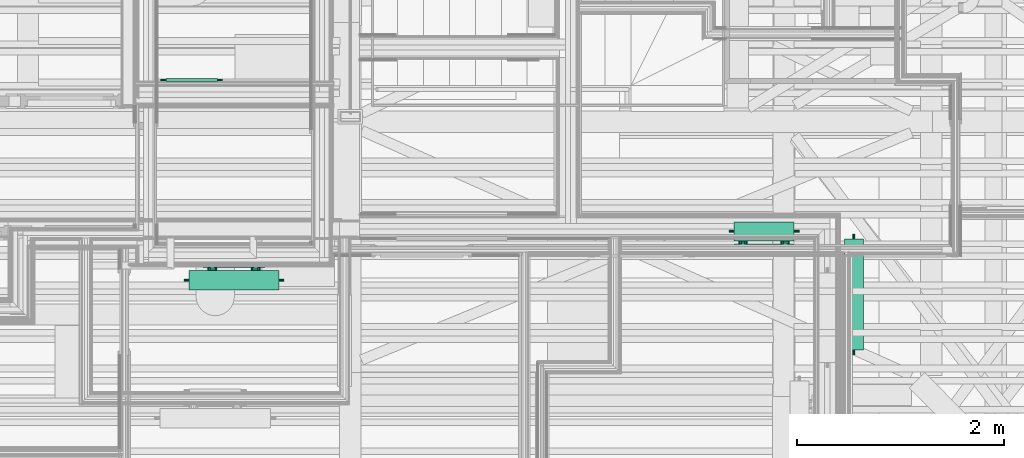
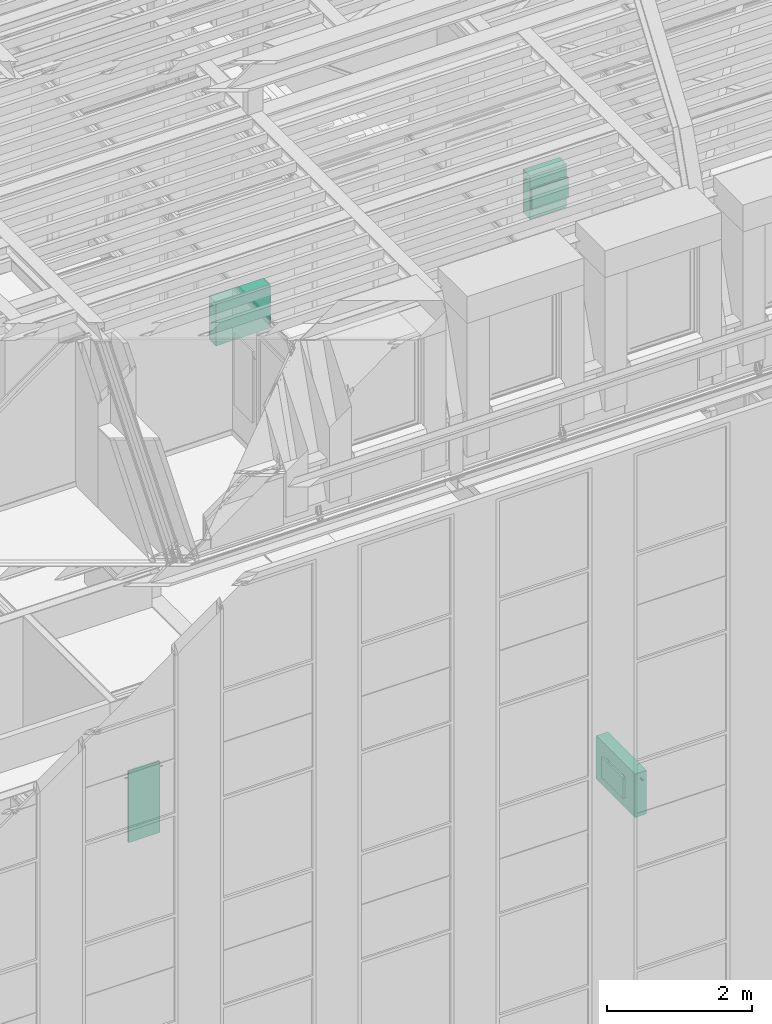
# One storey, part 166 of 183: 4 flow terminals.
"""IFC2X3 building model written with IfcOpenShell, lengths in metres."""

from ifc_helpers import new_model, entity, si_unit, converted_unit, derived_unit, money_unit, direction, frame, origin_with_axes, place, context, subcontext, project, spatial, open_shell, surface_model, material, type_object, element, save


model = new_model("IFC2X3")

# Units and contexts
model_context = context("Model", 3, precision=1e-05, world=origin_with_axes(), true_north=direction((0.0, 1.0)))
body_context = subcontext(model_context, "Body", "Model", "MODEL_VIEW", scale=1.0)
ifc_project = project(units=[si_unit("LENGTHUNIT", "METRE"), si_unit("AREAUNIT", "SQUARE_METRE"), si_unit("VOLUMEUNIT", "CUBIC_METRE"), si_unit("ABSORBEDDOSEUNIT", "GRAY"), si_unit("AMOUNTOFSUBSTANCEUNIT", "MOLE"), si_unit("DOSEEQUIVALENTUNIT", "SIEVERT"), si_unit("ELECTRICCAPACITANCEUNIT", "FARAD"), si_unit("ELECTRICCHARGEUNIT", "COULOMB"), si_unit("ELECTRICCONDUCTANCEUNIT", "SIEMENS"), si_unit("ELECTRICCURRENTUNIT", "AMPERE"), si_unit("ELECTRICRESISTANCEUNIT", "OHM"), si_unit("ELECTRICVOLTAGEUNIT", "VOLT"), si_unit("ENERGYUNIT", "JOULE"), si_unit("FORCEUNIT", "NEWTON"), si_unit("FREQUENCYUNIT", "HERTZ"), si_unit("ILLUMINANCEUNIT", "LUX"), si_unit("INDUCTANCEUNIT", "HENRY"), si_unit("LUMINOUSFLUXUNIT", "LUMEN"), si_unit("LUMINOUSINTENSITYUNIT", "CANDELA"), si_unit("MAGNETICFLUXDENSITYUNIT", "TESLA"), si_unit("MAGNETICFLUXUNIT", "WEBER"), si_unit("MASSUNIT", "GRAM"), converted_unit("PLANEANGLEUNIT", "degree", entity("IfcReal", 0.0174532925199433), si_unit("PLANEANGLEUNIT", "RADIAN"), dimensions=[0, 0, 0, 0, 0, 0, 0]), si_unit("POWERUNIT", "WATT"), si_unit("PRESSUREUNIT", "PASCAL"), si_unit("RADIOACTIVITYUNIT", "BECQUEREL"), si_unit("SOLIDANGLEUNIT", "STERADIAN"), si_unit("THERMODYNAMICTEMPERATUREUNIT", "KELVIN"), si_unit("TIMEUNIT", "SECOND"), derived_unit("ACCELERATIONUNIT", [(si_unit("LENGTHUNIT", "METRE"), 1), (si_unit("TIMEUNIT", "SECOND"), -2)]), derived_unit("ANGULARVELOCITYUNIT", [(converted_unit("PLANEANGLEUNIT", "degree", entity("IfcReal", 0.0174532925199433), si_unit("PLANEANGLEUNIT", "RADIAN"), dimensions=[0, 0, 0, 0, 0, 0, 0]), 1), (si_unit("TIMEUNIT", "SECOND"), -1)]), derived_unit("CURVATUREUNIT", [(converted_unit("PLANEANGLEUNIT", "degree", entity("IfcReal", 0.0174532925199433), si_unit("PLANEANGLEUNIT", "RADIAN"), dimensions=[0, 0, 0, 0, 0, 0, 0]), 1), (si_unit("LENGTHUNIT", "METRE"), -1)]), derived_unit("DYNAMICVISCOSITYUNIT", [(si_unit("PRESSUREUNIT", "PASCAL"), 1), (si_unit("TIMEUNIT", "SECOND"), 1)]), derived_unit("HEATFLUXDENSITYUNIT", [(si_unit("POWERUNIT", "WATT"), 1), (si_unit("LENGTHUNIT", "METRE"), -2)]), derived_unit("HEATINGVALUEUNIT", [(si_unit("ENERGYUNIT", "JOULE"), 1), (si_unit("MASSUNIT", "GRAM"), -1)]), derived_unit("INTEGERCOUNTRATEUNIT", [(si_unit("TIMEUNIT", "SECOND"), -1)]), derived_unit("IONCONCENTRATIONUNIT", [(si_unit("MASSUNIT", "GRAM"), 1), (si_unit("VOLUMEUNIT", "CUBIC_METRE"), -1)]), derived_unit("ISOTHERMALMOISTURECAPACITYUNIT", [(si_unit("VOLUMEUNIT", "CUBIC_METRE"), 1), (si_unit("MASSUNIT", "GRAM"), -1)]), derived_unit("KINEMATICVISCOSITYUNIT", [(si_unit("AREAUNIT", "SQUARE_METRE"), 1), (si_unit("TIMEUNIT", "SECOND"), -1)]), derived_unit("LINEARFORCEUNIT", [(si_unit("FORCEUNIT", "NEWTON"), 1), (si_unit("LENGTHUNIT", "METRE"), -1)]), derived_unit("LINEARMOMENTUNIT", [(si_unit("FORCEUNIT", "NEWTON"), 1), (si_unit("LENGTHUNIT", "METRE"), -1)]), derived_unit("LINEARSTIFFNESSUNIT", [(si_unit("FORCEUNIT", "NEWTON"), 1), (si_unit("LENGTHUNIT", "METRE"), -1)]), derived_unit("LINEARVELOCITYUNIT", [(si_unit("LENGTHUNIT", "METRE"), 1), (si_unit("TIMEUNIT", "SECOND"), -1)]), derived_unit("LUMINOUSINTENSITYDISTRIBUTIONUNIT", [(si_unit("LUMINOUSINTENSITYUNIT", "CANDELA"), 1), (si_unit("LUMINOUSFLUXUNIT", "LUMEN"), -1)]), derived_unit("MASSDENSITYUNIT", [(si_unit("MASSUNIT", "GRAM"), 1), (si_unit("VOLUMEUNIT", "CUBIC_METRE"), -1)]), derived_unit("MASSFLOWRATEUNIT", [(si_unit("MASSUNIT", "GRAM"), 1), (si_unit("TIMEUNIT", "SECOND"), -1)]), derived_unit("MASSPERLENGTHUNIT", [(si_unit("MASSUNIT", "GRAM"), 1), (si_unit("LENGTHUNIT", "METRE"), -1)]), derived_unit("MODULUSOFELASTICITYUNIT", [(si_unit("FORCEUNIT", "NEWTON"), 1), (si_unit("AREAUNIT", "SQUARE_METRE"), -1)]), derived_unit("MODULUSOFLINEARSUBGRADEREACTIONUNIT", [(si_unit("FORCEUNIT", "NEWTON"), 1), (si_unit("LENGTHUNIT", "METRE"), -2)]), derived_unit("MODULUSOFROTATIONALSUBGRADEREACTIONUNIT", [(si_unit("FORCEUNIT", "NEWTON"), 1), (si_unit("LENGTHUNIT", "METRE"), 1)]), derived_unit("MODULUSOFSUBGRADEREACTIONUNIT", [(si_unit("FORCEUNIT", "NEWTON"), 1), (si_unit("VOLUMEUNIT", "CUBIC_METRE"), -1)]), derived_unit("MOISTUREDIFFUSIVITYUNIT", [(si_unit("VOLUMEUNIT", "CUBIC_METRE"), 1), (si_unit("TIMEUNIT", "SECOND"), -1)]), derived_unit("MOLECULARWEIGHTUNIT", [(si_unit("MASSUNIT", "GRAM"), 1), (si_unit("AMOUNTOFSUBSTANCEUNIT", "MOLE"), -1)]), derived_unit("PLANARFORCEUNIT", [(si_unit("FORCEUNIT", "NEWTON"), 1), (si_unit("LENGTHUNIT", "METRE"), -2)]), derived_unit("ROTATIONALFREQUENCYUNIT", [(si_unit("TIMEUNIT", "SECOND"), -1)]), derived_unit("ROTATIONALMASSUNIT", [(si_unit("MASSUNIT", "GRAM"), 1), (si_unit("LENGTHUNIT", "METRE"), 2)]), derived_unit("ROTATIONALSTIFFNESSUNIT", [(si_unit("FORCEUNIT", "NEWTON"), 1), (si_unit("LENGTHUNIT", "METRE"), 1), (converted_unit("PLANEANGLEUNIT", "degree", entity("IfcReal", 0.0174532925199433), si_unit("PLANEANGLEUNIT", "RADIAN"), dimensions=[0, 0, 0, 0, 0, 0, 0]), -1)]), derived_unit("SECTIONAREAINTEGRALUNIT", [(si_unit("LENGTHUNIT", "METRE"), 5)]), derived_unit("SECTIONMODULUSUNIT", [(si_unit("LENGTHUNIT", "METRE"), 3)]), derived_unit("SHEARMODULUSUNIT", [(si_unit("FORCEUNIT", "NEWTON"), 1), (si_unit("AREAUNIT", "SQUARE_METRE"), -1)]), derived_unit("SOUNDPOWERUNIT", [(si_unit("ENERGYUNIT", "JOULE"), 1), (si_unit("TIMEUNIT", "SECOND"), -1)]), derived_unit("SPECIFICHEATCAPACITYUNIT", [(si_unit("FORCEUNIT", "NEWTON"), 1), (si_unit("MASSUNIT", "GRAM"), -1), (si_unit("THERMODYNAMICTEMPERATUREUNIT", "KELVIN"), -1)]), derived_unit("TEMPERATUREGRADIENTUNIT", [(si_unit("THERMODYNAMICTEMPERATUREUNIT", "KELVIN"), 1), (si_unit("LENGTHUNIT", "METRE"), -1)]), derived_unit("THERMALADMITTANCEUNIT", [(si_unit("POWERUNIT", "WATT"), 1), (si_unit("AREAUNIT", "SQUARE_METRE"), -1), (si_unit("THERMODYNAMICTEMPERATUREUNIT", "KELVIN"), -1)]), derived_unit("THERMALCONDUCTANCEUNIT", [(si_unit("POWERUNIT", "WATT"), 1), (si_unit("LENGTHUNIT", "METRE"), -1), (si_unit("THERMODYNAMICTEMPERATUREUNIT", "KELVIN"), -1)]), derived_unit("THERMALEXPANSIONCOEFFICIENTUNIT", [(si_unit("THERMODYNAMICTEMPERATUREUNIT", "KELVIN"), -1)]), derived_unit("THERMALRESISTANCEUNIT", [(si_unit("AREAUNIT", "SQUARE_METRE"), 1), (si_unit("POWERUNIT", "WATT"), -1)]), derived_unit("THERMALTRANSMITTANCEUNIT", [(si_unit("POWERUNIT", "WATT"), 1), (si_unit("AREAUNIT", "SQUARE_METRE"), -1), (si_unit("THERMODYNAMICTEMPERATUREUNIT", "KELVIN"), -1)]), derived_unit("TORQUEUNIT", [(si_unit("FORCEUNIT", "NEWTON"), 1), (si_unit("LENGTHUNIT", "METRE"), 1)]), derived_unit("VAPORPERMEABILITYUNIT", [(si_unit("MASSUNIT", "GRAM"), 1), (si_unit("TIMEUNIT", "SECOND"), -1)]), derived_unit("VOLUMETRICFLOWRATEUNIT", [(si_unit("VOLUMEUNIT", "CUBIC_METRE"), 1), (si_unit("TIMEUNIT", "SECOND"), -1)]), derived_unit("WARPINGCONSTANTUNIT", [(si_unit("LENGTHUNIT", "METRE"), 6)]), derived_unit("WARPINGMOMENTUNIT", [(si_unit("FORCEUNIT", "NEWTON"), 1), (si_unit("LENGTHUNIT", "METRE"), 2)]), money_unit("GBP")], contexts=[model_context])

# Site, building, storey, space
site_placement = place(None, origin_with_axes())
site = spatial("IfcSite", under=ifc_project, at=site_placement, Name="Site", CompositionType="ELEMENT")
building_placement = place(site_placement, origin_with_axes())
building = spatial("IfcBuilding", under=site, at=building_placement, Name="Building01", CompositionType="ELEMENT")
storey_placement = place(building_placement, frame((0.0, 0.0, 5.15), z_axis=(0.0, 0.0, 1.0), x_axis=(1.0, 0.0, 0.0)))
storey = spatial("IfcBuildingStorey", under=building, at=storey_placement, Name="1F", CompositionType="ELEMENT", Elevation=5.15)
space_1_placement = place(storey_placement, frame((20.122661, 7.155, 0.017975), z_axis=(0.0, 0.0, 1.0), x_axis=(0.0, -1.0, 0.0)))
space_1 = spatial("IfcSpace", under=storey, at=space_1_placement, Name="studio", CompositionType="ELEMENT", InteriorOrExteriorSpace="NOTDEFINED")

# Flow terminal
ifc_material = material(Name="M_BSUK_Ventilation")
space_heater_type_1 = type_object("IfcSpaceHeaterType", Name="M-BmvRadiatorpanel-Panel", PredefinedType="NOTDEFINED")
flow_terminal_1_placement = place(storey_placement, frame((22.77025, 4.9695, 0.665), z_axis=(0.0, 0.0, 1.0), x_axis=(0.0, 1.0, 0.0)))
element("IfcFlowTerminal", 1, at=flow_terminal_1_placement, inside=space_1, type_object=space_heater_type_1, material=ifc_material, Name="M-BmvRadiatorpanel-Panel", ObjectType="M-BmvRadiatorpanel-Panel", context=body_context, shape_type="SurfaceModel", body=[
    surface_model("IfcShellBasedSurfaceModel", [(-1.069, -0.0925, 0.365), (-1.069, 0.0925, 0.365), (0.0, 0.0925, 0.365), (0.0, -0.0925, 0.365), (-1.069, -0.0925, -0.365), (-1.069, 0.0925, -0.365), (0.0, -0.0925, -0.365), (0.0, 0.0925, -0.365), (-0.2345, 0.12025, 0.175), (-0.8345, 0.12025, 0.175), (-0.8345, 0.14525, 0.175), (-0.2345, 0.14525, 0.175), (-0.8345, 0.14525, -0.175), (-0.2345, 0.14525, -0.175), (-0.8345, 0.12025, -0.175), (-0.2345, 0.12025, -0.175), (-0.3245, 0.0925, 0.0775), (-0.3245, 0.12025, 0.0775), (-0.307279, 0.12025, 0.080925), (-0.307279, 0.0925, 0.080925), (-0.29268, 0.12025, 0.09068), (-0.29268, 0.0925, 0.09068), (-0.282925, 0.12025, 0.105279), (-0.282925, 0.0925, 0.105279), (-0.2795, 0.12025, 0.1225), (-0.2795, 0.0925, 0.1225), (-0.282925, 0.12025, 0.139721), (-0.282925, 0.0925, 0.139721), (-0.29268, 0.12025, 0.15432), (-0.29268, 0.0925, 0.15432), (-0.307279, 0.12025, 0.164075), (-0.307279, 0.0925, 0.164075), (-0.3245, 0.12025, 0.1675), (-0.3245, 0.0925, 0.1675), (-0.341721, 0.12025, 0.164075), (-0.341721, 0.0925, 0.164075), (-0.35632, 0.12025, 0.15432), (-0.35632, 0.0925, 0.15432), (-0.366075, 0.12025, 0.139721), (-0.366075, 0.0925, 0.139721), (-0.3695, 0.12025, 0.1225), (-0.3695, 0.0925, 0.1225), (-0.366075, 0.12025, 0.105279), (-0.366075, 0.0925, 0.105279), (-0.35632, 0.12025, 0.09068), (-0.35632, 0.0925, 0.09068), (-0.341721, 0.12025, 0.080925), (-0.341721, 0.0925, 0.080925), (-0.7445, 0.0925, 0.0775), (-0.7445, 0.12025, 0.0775), (-0.727279, 0.12025, 0.080925), (-0.727279, 0.0925, 0.080925), (-0.71268, 0.12025, 0.09068), (-0.71268, 0.0925, 0.09068), (-0.702925, 0.12025, 0.105279), (-0.702925, 0.0925, 0.105279), (-0.6995, 0.12025, 0.1225), (-0.6995, 0.0925, 0.1225), (-0.702925, 0.12025, 0.139721), (-0.702925, 0.0925, 0.139721), (-0.71268, 0.12025, 0.15432), (-0.71268, 0.0925, 0.15432), (-0.727279, 0.12025, 0.164075), (-0.727279, 0.0925, 0.164075), (-0.7445, 0.12025, 0.1675), (-0.7445, 0.0925, 0.1675), (-0.761721, 0.12025, 0.164075), (-0.761721, 0.0925, 0.164075), (-0.77632, 0.12025, 0.15432), (-0.77632, 0.0925, 0.15432), (-0.786075, 0.12025, 0.139721), (-0.786075, 0.0925, 0.139721), (-0.7895, 0.12025, 0.1225), (-0.7895, 0.0925, 0.1225), (-0.786075, 0.12025, 0.105279), (-0.786075, 0.0925, 0.105279), (-0.77632, 0.12025, 0.09068), (-0.77632, 0.0925, 0.09068), (-0.761721, 0.12025, 0.080925), (-0.761721, 0.0925, 0.080925), (0.05, 0.0, -0.0225), (0.0, 0.0, -0.0225), (0.0, 0.004784, -0.021548), (0.05, 0.004784, -0.021548), (0.0, 0.008839, -0.018839), (0.05, 0.008839, -0.018839), (0.0, 0.011548, -0.014784), (0.05, 0.011548, -0.014784), (0.0, 0.0125, -0.01), (0.05, 0.0125, -0.01), (0.0, 0.011548, -0.005216), (0.05, 0.011548, -0.005216), (0.0, 0.008839, -0.001161), (0.05, 0.008839, -0.001161), (0.0, 0.004784, 0.001548), (0.05, 0.004784, 0.001548), (0.0, 0.0, 0.0025), (0.05, 0.0, 0.0025), (0.0, -0.004784, 0.001548), (0.05, -0.004784, 0.001548), (0.0, -0.008839, -0.001161), (0.05, -0.008839, -0.001161), (0.0, -0.011548, -0.005216), (0.05, -0.011548, -0.005216), (0.0, -0.0125, -0.01), (0.05, -0.0125, -0.01), (0.0, -0.011548, -0.014784), (0.05, -0.011548, -0.014784), (0.0, -0.008839, -0.018839), (0.05, -0.008839, -0.018839), (0.0, -0.004784, -0.021548), (0.05, -0.004784, -0.021548), (-1.119, 0.0, 0.2525), (-1.069, 0.0, 0.2525), (-1.069, -0.004784, 0.253452), (-1.119, -0.004784, 0.253452), (-1.069, -0.008839, 0.256161), (-1.119, -0.008839, 0.256161), (-1.069, -0.011548, 0.260216), (-1.119, -0.011548, 0.260216), (-1.069, -0.0125, 0.265), (-1.119, -0.0125, 0.265), (-1.069, -0.011548, 0.269784), (-1.119, -0.011548, 0.269784), (-1.069, -0.008839, 0.273839), (-1.119, -0.008839, 0.273839), (-1.069, -0.004784, 0.276548), (-1.119, -0.004784, 0.276548), (-1.069, 0.0, 0.2775), (-1.119, 0.0, 0.2775), (-1.069, 0.004784, 0.276548), (-1.119, 0.004784, 0.276548), (-1.069, 0.008839, 0.273839), (-1.119, 0.008839, 0.273839), (-1.069, 0.011548, 0.269784), (-1.119, 0.011548, 0.269784), (-1.069, 0.0125, 0.265), (-1.119, 0.0125, 0.265), (-1.069, 0.011548, 0.260216), (-1.119, 0.011548, 0.260216), (-1.069, 0.008839, 0.256161), (-1.119, 0.008839, 0.256161), (-1.069, 0.004784, 0.253452), (-1.119, 0.004784, 0.253452)], [open_shell([[[0, 1, 2, 3]], [[4, 5, 1, 0]], [[6, 7, 5, 4]], [[3, 2, 7, 6]], [[1, 5, 7, 2]], [[3, 6, 4, 0]], [[8, 9, 10, 11]], [[11, 10, 12, 13]], [[13, 12, 14, 15]], [[15, 14, 9, 8]], [[9, 14, 12, 10]], [[11, 13, 15, 8]], [[16, 17, 18, 19]], [[19, 18, 20, 21]], [[21, 20, 22, 23]], [[23, 22, 24, 25]], [[25, 24, 26, 27]], [[27, 26, 28, 29]], [[29, 28, 30, 31]], [[31, 30, 32, 33]], [[33, 32, 34, 35]], [[35, 34, 36, 37]], [[37, 36, 38, 39]], [[39, 38, 40, 41]], [[41, 40, 42, 43]], [[43, 42, 44, 45]], [[45, 44, 46, 47]], [[47, 46, 17, 16]], [[48, 49, 50, 51]], [[51, 50, 52, 53]], [[53, 52, 54, 55]], [[55, 54, 56, 57]], [[57, 56, 58, 59]], [[59, 58, 60, 61]], [[61, 60, 62, 63]], [[63, 62, 64, 65]], [[65, 64, 66, 67]], [[67, 66, 68, 69]], [[69, 68, 70, 71]], [[71, 70, 72, 73]], [[73, 72, 74, 75]], [[75, 74, 76, 77]], [[77, 76, 78, 79]], [[79, 78, 49, 48]], [[80, 81, 82, 83]], [[83, 82, 84, 85]], [[85, 84, 86, 87]], [[87, 86, 88, 89]], [[89, 88, 90, 91]], [[91, 90, 92, 93]], [[93, 92, 94, 95]], [[95, 94, 96, 97]], [[97, 96, 98, 99]], [[99, 98, 100, 101]], [[101, 100, 102, 103]], [[103, 102, 104, 105]], [[105, 104, 106, 107]], [[107, 106, 108, 109]], [[109, 108, 110, 111]], [[111, 110, 81, 80]], [[112, 113, 114, 115]], [[115, 114, 116, 117]], [[117, 116, 118, 119]], [[119, 118, 120, 121]], [[121, 120, 122, 123]], [[123, 122, 124, 125]], [[125, 124, 126, 127]], [[127, 126, 128, 129]], [[129, 128, 130, 131]], [[131, 130, 132, 133]], [[133, 132, 134, 135]], [[135, 134, 136, 137]], [[137, 136, 138, 139]], [[139, 138, 140, 141]], [[141, 140, 142, 143]], [[143, 142, 113, 112]]])]),
])

# Space
space_2_placement = place(storey_placement, frame((17.73844, 7.349915, 9.81), z_axis=(0.0, 0.0, 1.0), x_axis=(0.0, -1.0, 0.0)))
space_2 = spatial("IfcSpace", under=storey, at=space_2_placement, Name="24", CompositionType="ELEMENT", InteriorOrExteriorSpace="NOTDEFINED")

# Flow terminals
flow_terminal_2_placement = place(storey_placement, frame((22.193545, 5.04225, 10.445), z_axis=(0.0, 0.0, 1.0), x_axis=(-1.0, 0.0, 0.0)))
element("IfcFlowTerminal", 2, at=flow_terminal_2_placement, inside=space_2, type_object=space_heater_type_1, material=ifc_material, Name="M-BmvRadiatorpanel-Panel", ObjectType="M-BmvRadiatorpanel-Panel", context=body_context, shape_type="SurfaceModel", body=[
    surface_model("IfcShellBasedSurfaceModel", [(0.58, -0.0925, 0.365), (0.58, 0.0925, 0.365), (0.0, 0.0925, 0.365), (0.0, -0.0925, 0.365), (0.58, -0.0925, -0.365), (0.58, 0.0925, -0.365), (0.0, -0.0925, -0.365), (0.0, 0.0925, -0.365), (0.0, 0.12025, 0.175), (0.58, 0.12025, 0.175), (0.58, 0.14525, 0.175), (0.0, 0.14525, 0.175), (0.58, 0.14525, -0.175), (0.0, 0.14525, -0.175), (0.58, 0.12025, -0.175), (0.0, 0.12025, -0.175), (0.087, 0.0925, 0.079), (0.087, 0.12025, 0.079), (0.103647, 0.12025, 0.082311), (0.103647, 0.0925, 0.082311), (0.117759, 0.12025, 0.091741), (0.117759, 0.0925, 0.091741), (0.127189, 0.12025, 0.105853), (0.127189, 0.0925, 0.105853), (0.1305, 0.12025, 0.1225), (0.1305, 0.0925, 0.1225), (0.127189, 0.12025, 0.139147), (0.127189, 0.0925, 0.139147), (0.117759, 0.12025, 0.153259), (0.117759, 0.0925, 0.153259), (0.103647, 0.12025, 0.162689), (0.103647, 0.0925, 0.162689), (0.087, 0.12025, 0.166), (0.087, 0.0925, 0.166), (0.070353, 0.12025, 0.162689), (0.070353, 0.0925, 0.162689), (0.056241, 0.12025, 0.153259), (0.056241, 0.0925, 0.153259), (0.046811, 0.12025, 0.139147), (0.046811, 0.0925, 0.139147), (0.0435, 0.12025, 0.1225), (0.0435, 0.0925, 0.1225), (0.046811, 0.12025, 0.105853), (0.046811, 0.0925, 0.105853), (0.056241, 0.12025, 0.091741), (0.056241, 0.0925, 0.091741), (0.070353, 0.12025, 0.082311), (0.070353, 0.0925, 0.082311), (0.493, 0.0925, 0.079), (0.493, 0.12025, 0.079), (0.509647, 0.12025, 0.082311), (0.509647, 0.0925, 0.082311), (0.523759, 0.12025, 0.091741), (0.523759, 0.0925, 0.091741), (0.533189, 0.12025, 0.105853), (0.533189, 0.0925, 0.105853), (0.5365, 0.12025, 0.1225), (0.5365, 0.0925, 0.1225), (0.533189, 0.12025, 0.139147), (0.533189, 0.0925, 0.139147), (0.523759, 0.12025, 0.153259), (0.523759, 0.0925, 0.153259), (0.509647, 0.12025, 0.162689), (0.509647, 0.0925, 0.162689), (0.493, 0.12025, 0.166), (0.493, 0.0925, 0.166), (0.476353, 0.12025, 0.162689), (0.476353, 0.0925, 0.162689), (0.462241, 0.12025, 0.153259), (0.462241, 0.0925, 0.153259), (0.452811, 0.12025, 0.139147), (0.452811, 0.0925, 0.139147), (0.4495, 0.12025, 0.1225), (0.4495, 0.0925, 0.1225), (0.452811, 0.12025, 0.105853), (0.452811, 0.0925, 0.105853), (0.462241, 0.12025, 0.091741), (0.462241, 0.0925, 0.091741), (0.476353, 0.12025, 0.082311), (0.476353, 0.0925, 0.082311), (-0.05, 0.0, -0.0225), (0.0, 0.0, -0.0225), (0.0, -0.004784, -0.021548), (-0.05, -0.004784, -0.021548), (0.0, -0.008839, -0.018839), (-0.05, -0.008839, -0.018839), (0.0, -0.011548, -0.014784), (-0.05, -0.011548, -0.014784), (0.0, -0.0125, -0.01), (-0.05, -0.0125, -0.01), (0.0, -0.011548, -0.005216), (-0.05, -0.011548, -0.005216), (0.0, -0.008839, -0.001161), (-0.05, -0.008839, -0.001161), (0.0, -0.004784, 0.001548), (-0.05, -0.004784, 0.001548), (0.0, 0.0, 0.0025), (-0.05, 0.0, 0.0025), (0.0, 0.004784, 0.001548), (-0.05, 0.004784, 0.001548), (0.0, 0.008839, -0.001161), (-0.05, 0.008839, -0.001161), (0.0, 0.011548, -0.005216), (-0.05, 0.011548, -0.005216), (0.0, 0.0125, -0.01), (-0.05, 0.0125, -0.01), (0.0, 0.011548, -0.014784), (-0.05, 0.011548, -0.014784), (0.0, 0.008839, -0.018839), (-0.05, 0.008839, -0.018839), (0.0, 0.004784, -0.021548), (-0.05, 0.004784, -0.021548), (0.63, 0.0, 0.2525), (0.58, 0.0, 0.2525), (0.58, 0.004784, 0.253452), (0.63, 0.004784, 0.253452), (0.58, 0.008839, 0.256161), (0.63, 0.008839, 0.256161), (0.58, 0.011548, 0.260216), (0.63, 0.011548, 0.260216), (0.58, 0.0125, 0.265), (0.63, 0.0125, 0.265), (0.58, 0.011548, 0.269784), (0.63, 0.011548, 0.269784), (0.58, 0.008839, 0.273839), (0.63, 0.008839, 0.273839), (0.58, 0.004784, 0.276548), (0.63, 0.004784, 0.276548), (0.58, 0.0, 0.2775), (0.63, 0.0, 0.2775), (0.58, -0.004784, 0.276548), (0.63, -0.004784, 0.276548), (0.58, -0.008839, 0.273839), (0.63, -0.008839, 0.273839), (0.58, -0.011548, 0.269784), (0.63, -0.011548, 0.269784), (0.58, -0.0125, 0.265), (0.63, -0.0125, 0.265), (0.58, -0.011548, 0.260216), (0.63, -0.011548, 0.260216), (0.58, -0.008839, 0.256161), (0.63, -0.008839, 0.256161), (0.58, -0.004784, 0.253452), (0.63, -0.004784, 0.253452)], [open_shell([[[0, 1, 2, 3]], [[4, 5, 1, 0]], [[6, 7, 5, 4]], [[3, 2, 7, 6]], [[1, 5, 7, 2]], [[3, 6, 4, 0]], [[8, 9, 10, 11]], [[11, 10, 12, 13]], [[13, 12, 14, 15]], [[15, 14, 9, 8]], [[9, 14, 12, 10]], [[11, 13, 15, 8]], [[16, 17, 18, 19]], [[19, 18, 20, 21]], [[21, 20, 22, 23]], [[23, 22, 24, 25]], [[25, 24, 26, 27]], [[27, 26, 28, 29]], [[29, 28, 30, 31]], [[31, 30, 32, 33]], [[33, 32, 34, 35]], [[35, 34, 36, 37]], [[37, 36, 38, 39]], [[39, 38, 40, 41]], [[41, 40, 42, 43]], [[43, 42, 44, 45]], [[45, 44, 46, 47]], [[47, 46, 17, 16]], [[48, 49, 50, 51]], [[51, 50, 52, 53]], [[53, 52, 54, 55]], [[55, 54, 56, 57]], [[57, 56, 58, 59]], [[59, 58, 60, 61]], [[61, 60, 62, 63]], [[63, 62, 64, 65]], [[65, 64, 66, 67]], [[67, 66, 68, 69]], [[69, 68, 70, 71]], [[71, 70, 72, 73]], [[73, 72, 74, 75]], [[75, 74, 76, 77]], [[77, 76, 78, 79]], [[79, 78, 49, 48]], [[80, 81, 82, 83]], [[83, 82, 84, 85]], [[85, 84, 86, 87]], [[87, 86, 88, 89]], [[89, 88, 90, 91]], [[91, 90, 92, 93]], [[93, 92, 94, 95]], [[95, 94, 96, 97]], [[97, 96, 98, 99]], [[99, 98, 100, 101]], [[101, 100, 102, 103]], [[103, 102, 104, 105]], [[105, 104, 106, 107]], [[107, 106, 108, 109]], [[109, 108, 110, 111]], [[111, 110, 81, 80]], [[112, 113, 114, 115]], [[115, 114, 116, 117]], [[117, 116, 118, 119]], [[119, 118, 120, 121]], [[121, 120, 122, 123]], [[123, 122, 124, 125]], [[125, 124, 126, 127]], [[127, 126, 128, 129]], [[129, 128, 130, 131]], [[131, 130, 132, 133]], [[133, 132, 134, 135]], [[135, 134, 136, 137]], [[137, 136, 138, 139]], [[139, 138, 140, 141]], [[141, 140, 142, 143]], [[143, 142, 113, 112]]])]),
])
flow_terminal_3_placement = place(storey_placement, frame((17.22094, 4.57175, 10.445), z_axis=(0.0, 0.0, 1.0), x_axis=(1.0, 0.0, 0.0)))
element("IfcFlowTerminal", 3, at=flow_terminal_3_placement, inside=space_2, type_object=space_heater_type_1, material=ifc_material, Name="M-BmvRadiatorpanel-Panel", ObjectType="M-BmvRadiatorpanel-Panel", context=body_context, shape_type="SurfaceModel", body=[
    surface_model("IfcShellBasedSurfaceModel", [(-0.865, -0.0925, 0.365), (-0.865, 0.0925, 0.365), (0.0, 0.0925, 0.365), (0.0, -0.0925, 0.365), (-0.865, -0.0925, -0.365), (-0.865, 0.0925, -0.365), (0.0, -0.0925, -0.365), (0.0, 0.0925, -0.365), (-0.1325, 0.12025, 0.175), (-0.7325, 0.12025, 0.175), (-0.7325, 0.14525, 0.175), (-0.1325, 0.14525, 0.175), (-0.7325, 0.14525, -0.175), (-0.1325, 0.14525, -0.175), (-0.7325, 0.12025, -0.175), (-0.1325, 0.12025, -0.175), (-0.2225, 0.0925, 0.0775), (-0.2225, 0.12025, 0.0775), (-0.205279, 0.12025, 0.080925), (-0.205279, 0.0925, 0.080925), (-0.19068, 0.12025, 0.09068), (-0.19068, 0.0925, 0.09068), (-0.180925, 0.12025, 0.105279), (-0.180925, 0.0925, 0.105279), (-0.1775, 0.12025, 0.1225), (-0.1775, 0.0925, 0.1225), (-0.180925, 0.12025, 0.139721), (-0.180925, 0.0925, 0.139721), (-0.19068, 0.12025, 0.15432), (-0.19068, 0.0925, 0.15432), (-0.205279, 0.12025, 0.164075), (-0.205279, 0.0925, 0.164075), (-0.2225, 0.12025, 0.1675), (-0.2225, 0.0925, 0.1675), (-0.239721, 0.12025, 0.164075), (-0.239721, 0.0925, 0.164075), (-0.25432, 0.12025, 0.15432), (-0.25432, 0.0925, 0.15432), (-0.264075, 0.12025, 0.139721), (-0.264075, 0.0925, 0.139721), (-0.2675, 0.12025, 0.1225), (-0.2675, 0.0925, 0.1225), (-0.264075, 0.12025, 0.105279), (-0.264075, 0.0925, 0.105279), (-0.25432, 0.12025, 0.09068), (-0.25432, 0.0925, 0.09068), (-0.239721, 0.12025, 0.080925), (-0.239721, 0.0925, 0.080925), (-0.6425, 0.0925, 0.0775), (-0.6425, 0.12025, 0.0775), (-0.625279, 0.12025, 0.080925), (-0.625279, 0.0925, 0.080925), (-0.61068, 0.12025, 0.09068), (-0.61068, 0.0925, 0.09068), (-0.600925, 0.12025, 0.105279), (-0.600925, 0.0925, 0.105279), (-0.5975, 0.12025, 0.1225), (-0.5975, 0.0925, 0.1225), (-0.600925, 0.12025, 0.139721), (-0.600925, 0.0925, 0.139721), (-0.61068, 0.12025, 0.15432), (-0.61068, 0.0925, 0.15432), (-0.625279, 0.12025, 0.164075), (-0.625279, 0.0925, 0.164075), (-0.6425, 0.12025, 0.1675), (-0.6425, 0.0925, 0.1675), (-0.659721, 0.12025, 0.164075), (-0.659721, 0.0925, 0.164075), (-0.67432, 0.12025, 0.15432), (-0.67432, 0.0925, 0.15432), (-0.684075, 0.12025, 0.139721), (-0.684075, 0.0925, 0.139721), (-0.6875, 0.12025, 0.1225), (-0.6875, 0.0925, 0.1225), (-0.684075, 0.12025, 0.105279), (-0.684075, 0.0925, 0.105279), (-0.67432, 0.12025, 0.09068), (-0.67432, 0.0925, 0.09068), (-0.659721, 0.12025, 0.080925), (-0.659721, 0.0925, 0.080925), (0.05, 0.0, -0.0225), (0.0, 0.0, -0.0225), (0.0, 0.004784, -0.021548), (0.05, 0.004784, -0.021548), (0.0, 0.008839, -0.018839), (0.05, 0.008839, -0.018839), (0.0, 0.011548, -0.014784), (0.05, 0.011548, -0.014784), (0.0, 0.0125, -0.01), (0.05, 0.0125, -0.01), (0.0, 0.011548, -0.005216), (0.05, 0.011548, -0.005216), (0.0, 0.008839, -0.001161), (0.05, 0.008839, -0.001161), (0.0, 0.004784, 0.001548), (0.05, 0.004784, 0.001548), (0.0, 0.0, 0.0025), (0.05, 0.0, 0.0025), (0.0, -0.004784, 0.001548), (0.05, -0.004784, 0.001548), (0.0, -0.008839, -0.001161), (0.05, -0.008839, -0.001161), (0.0, -0.011548, -0.005216), (0.05, -0.011548, -0.005216), (0.0, -0.0125, -0.01), (0.05, -0.0125, -0.01), (0.0, -0.011548, -0.014784), (0.05, -0.011548, -0.014784), (0.0, -0.008839, -0.018839), (0.05, -0.008839, -0.018839), (0.0, -0.004784, -0.021548), (0.05, -0.004784, -0.021548), (-0.915, 0.0, 0.2525), (-0.865, 0.0, 0.2525), (-0.865, -0.004784, 0.253452), (-0.915, -0.004784, 0.253452), (-0.865, -0.008839, 0.256161), (-0.915, -0.008839, 0.256161), (-0.865, -0.011548, 0.260216), (-0.915, -0.011548, 0.260216), (-0.865, -0.0125, 0.265), (-0.915, -0.0125, 0.265), (-0.865, -0.011548, 0.269784), (-0.915, -0.011548, 0.269784), (-0.865, -0.008839, 0.273839), (-0.915, -0.008839, 0.273839), (-0.865, -0.004784, 0.276548), (-0.915, -0.004784, 0.276548), (-0.865, 0.0, 0.2775), (-0.915, 0.0, 0.2775), (-0.865, 0.004784, 0.276548), (-0.915, 0.004784, 0.276548), (-0.865, 0.008839, 0.273839), (-0.915, 0.008839, 0.273839), (-0.865, 0.011548, 0.269784), (-0.915, 0.011548, 0.269784), (-0.865, 0.0125, 0.265), (-0.915, 0.0125, 0.265), (-0.865, 0.011548, 0.260216), (-0.915, 0.011548, 0.260216), (-0.865, 0.008839, 0.256161), (-0.915, 0.008839, 0.256161), (-0.865, 0.004784, 0.253452), (-0.915, 0.004784, 0.253452)], [open_shell([[[0, 1, 2, 3]], [[4, 5, 1, 0]], [[6, 7, 5, 4]], [[3, 2, 7, 6]], [[1, 5, 7, 2]], [[3, 6, 4, 0]], [[8, 9, 10, 11]], [[11, 10, 12, 13]], [[13, 12, 14, 15]], [[15, 14, 9, 8]], [[9, 14, 12, 10]], [[11, 13, 15, 8]], [[16, 17, 18, 19]], [[19, 18, 20, 21]], [[21, 20, 22, 23]], [[23, 22, 24, 25]], [[25, 24, 26, 27]], [[27, 26, 28, 29]], [[29, 28, 30, 31]], [[31, 30, 32, 33]], [[33, 32, 34, 35]], [[35, 34, 36, 37]], [[37, 36, 38, 39]], [[39, 38, 40, 41]], [[41, 40, 42, 43]], [[43, 42, 44, 45]], [[45, 44, 46, 47]], [[47, 46, 17, 16]], [[48, 49, 50, 51]], [[51, 50, 52, 53]], [[53, 52, 54, 55]], [[55, 54, 56, 57]], [[57, 56, 58, 59]], [[59, 58, 60, 61]], [[61, 60, 62, 63]], [[63, 62, 64, 65]], [[65, 64, 66, 67]], [[67, 66, 68, 69]], [[69, 68, 70, 71]], [[71, 70, 72, 73]], [[73, 72, 74, 75]], [[75, 74, 76, 77]], [[77, 76, 78, 79]], [[79, 78, 49, 48]], [[80, 81, 82, 83]], [[83, 82, 84, 85]], [[85, 84, 86, 87]], [[87, 86, 88, 89]], [[89, 88, 90, 91]], [[91, 90, 92, 93]], [[93, 92, 94, 95]], [[95, 94, 96, 97]], [[97, 96, 98, 99]], [[99, 98, 100, 101]], [[101, 100, 102, 103]], [[103, 102, 104, 105]], [[105, 104, 106, 107]], [[107, 106, 108, 109]], [[109, 108, 110, 111]], [[111, 110, 81, 80]], [[112, 113, 114, 115]], [[115, 114, 116, 117]], [[117, 116, 118, 119]], [[119, 118, 120, 121]], [[121, 120, 122, 123]], [[123, 122, 124, 125]], [[125, 124, 126, 127]], [[127, 126, 128, 129]], [[129, 128, 130, 131]], [[131, 130, 132, 133]], [[133, 132, 134, 135]], [[135, 134, 136, 137]], [[137, 136, 138, 139]], [[139, 138, 140, 141]], [[141, 140, 142, 143]], [[143, 142, 113, 112]]])]),
])

# Space
space_3_placement = place(storey_placement, frame((15.83, 8.65, 0.017975), z_axis=(0.0, 0.0, 1.0), x_axis=(0.0, -1.0, 0.0)))
space_3 = spatial("IfcSpace", under=storey, at=space_3_placement, Name="bath", CompositionType="ELEMENT", InteriorOrExteriorSpace="NOTDEFINED")

# Flow terminal
space_heater_type_2 = type_object("IfcSpaceHeaterType", Name="M-BmvRadiator-Column", PredefinedType="NOTDEFINED")
flow_terminal_4_placement = place(storey_placement, frame((16.129895, 6.504218, 1.2), z_axis=(0.0, 0.0, 1.0), x_axis=(-1.0, 0.0, 0.0)))
element("IfcFlowTerminal", 4, at=flow_terminal_4_placement, inside=space_3, type_object=space_heater_type_2, material=ifc_material, Name="M-BmvRadiator-Column", ObjectType="M-BmvRadiator-Column", context=body_context, shape_type="SurfaceModel", body=[
    surface_model("IfcShellBasedSurfaceModel", [(0.0, -0.0125, 0.6), (0.0, -0.0125, -0.6), (0.0, 0.0125, -0.6), (0.0, 0.0125, 0.6), (-0.5, -0.0125, 0.6), (-0.5, -0.0125, -0.6), (-0.5, 0.0125, -0.6), (-0.5, 0.0125, 0.6), (-0.1, 0.0125, 0.6), (-0.1, -0.0125, 0.6), (-0.1, -0.0125, -0.6), (-0.1, 0.0125, -0.6), (-0.2, 0.0125, 0.6), (-0.2, -0.0125, 0.6), (-0.2, -0.0125, -0.6), (-0.2, 0.0125, -0.6), (-0.3, 0.0125, 0.6), (-0.3, -0.0125, 0.6), (-0.3, -0.0125, -0.6), (-0.3, 0.0125, -0.6), (-0.4, 0.0125, 0.6), (-0.4, -0.0125, 0.6), (-0.4, -0.0125, -0.6), (-0.4, 0.0125, -0.6), (0.05, 0.0, 0.4825), (0.0, 0.0, 0.4825), (0.0, 0.003827, 0.483261), (0.05, 0.003827, 0.483261), (0.0, 0.007071, 0.485429), (0.05, 0.007071, 0.485429), (0.0, 0.009239, 0.488673), (0.05, 0.009239, 0.488673), (0.0, 0.01, 0.4925), (0.05, 0.01, 0.4925), (0.0, 0.009239, 0.496327), (0.05, 0.009239, 0.496327), (0.0, 0.007071, 0.499571), (0.05, 0.007071, 0.499571), (0.0, 0.003827, 0.501739), (0.05, 0.003827, 0.501739), (0.0, 0.0, 0.5025), (0.05, 0.0, 0.5025), (0.0, -0.003827, 0.501739), (0.05, -0.003827, 0.501739), (0.0, -0.007071, 0.499571), (0.05, -0.007071, 0.499571), (0.0, -0.009239, 0.496327), (0.05, -0.009239, 0.496327), (0.0, -0.01, 0.4925), (0.05, -0.01, 0.4925), (0.0, -0.009239, 0.488673), (0.05, -0.009239, 0.488673), (0.0, -0.007071, 0.485429), (0.05, -0.007071, 0.485429), (0.0, -0.003827, 0.483261), (0.05, -0.003827, 0.483261), (-0.55, 0.0, 0.4884), (-0.5, 0.0, 0.4884), (-0.5, -0.003827, 0.489161), (-0.55, -0.003827, 0.489161), (-0.5, -0.007071, 0.491329), (-0.55, -0.007071, 0.491329), (-0.5, -0.009239, 0.494573), (-0.55, -0.009239, 0.494573), (-0.5, -0.01, 0.4984), (-0.55, -0.01, 0.4984), (-0.5, -0.009239, 0.502227), (-0.55, -0.009239, 0.502227), (-0.5, -0.007071, 0.505471), (-0.55, -0.007071, 0.505471), (-0.5, -0.003827, 0.507639), (-0.55, -0.003827, 0.507639), (-0.5, 0.0, 0.5084), (-0.55, 0.0, 0.5084), (-0.5, 0.003827, 0.507639), (-0.55, 0.003827, 0.507639), (-0.5, 0.007071, 0.505471), (-0.55, 0.007071, 0.505471), (-0.5, 0.009239, 0.502227), (-0.55, 0.009239, 0.502227), (-0.5, 0.01, 0.4984), (-0.55, 0.01, 0.4984), (-0.5, 0.009239, 0.494573), (-0.55, 0.009239, 0.494573), (-0.5, 0.007071, 0.491329), (-0.55, 0.007071, 0.491329), (-0.5, 0.003827, 0.489161), (-0.55, 0.003827, 0.489161)], [open_shell([[[0, 1, 2, 3]], [[4, 5, 6, 7]], [[8, 3, 0, 9]], [[9, 0, 1, 10]], [[10, 1, 2, 11]], [[11, 2, 3, 8]], [[12, 8, 9, 13]], [[13, 9, 10, 14]], [[14, 10, 11, 15]], [[15, 11, 8, 12]], [[16, 12, 13, 17]], [[17, 13, 14, 18]], [[18, 14, 15, 19]], [[19, 15, 12, 16]], [[20, 16, 17, 21]], [[21, 17, 18, 22]], [[22, 18, 19, 23]], [[23, 19, 16, 20]], [[7, 20, 21, 4]], [[4, 21, 22, 5]], [[5, 22, 23, 6]], [[6, 23, 20, 7]], [[24, 25, 26, 27]], [[27, 26, 28, 29]], [[29, 28, 30, 31]], [[31, 30, 32, 33]], [[33, 32, 34, 35]], [[35, 34, 36, 37]], [[37, 36, 38, 39]], [[39, 38, 40, 41]], [[41, 40, 42, 43]], [[43, 42, 44, 45]], [[45, 44, 46, 47]], [[47, 46, 48, 49]], [[49, 48, 50, 51]], [[51, 50, 52, 53]], [[53, 52, 54, 55]], [[55, 54, 25, 24]], [[56, 57, 58, 59]], [[59, 58, 60, 61]], [[61, 60, 62, 63]], [[63, 62, 64, 65]], [[65, 64, 66, 67]], [[67, 66, 68, 69]], [[69, 68, 70, 71]], [[71, 70, 72, 73]], [[73, 72, 74, 75]], [[75, 74, 76, 77]], [[77, 76, 78, 79]], [[79, 78, 80, 81]], [[81, 80, 82, 83]], [[83, 82, 84, 85]], [[85, 84, 86, 87]], [[87, 86, 57, 56]]])]),
])

save(model, "model.ifc")
